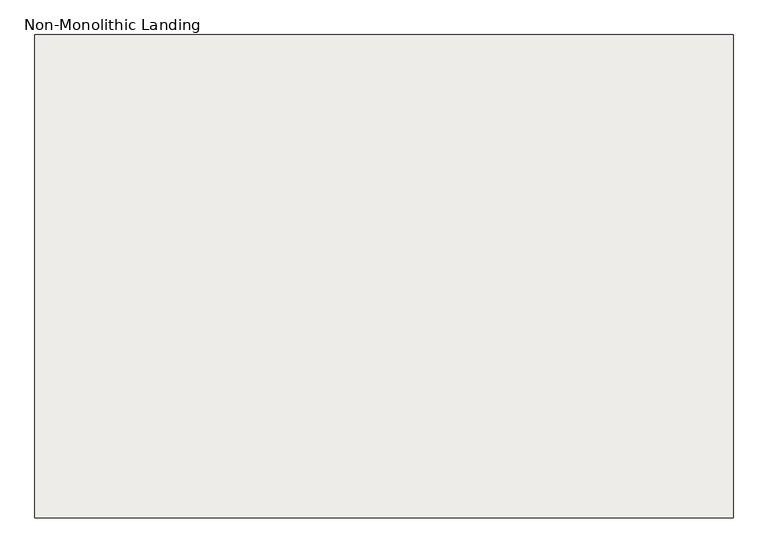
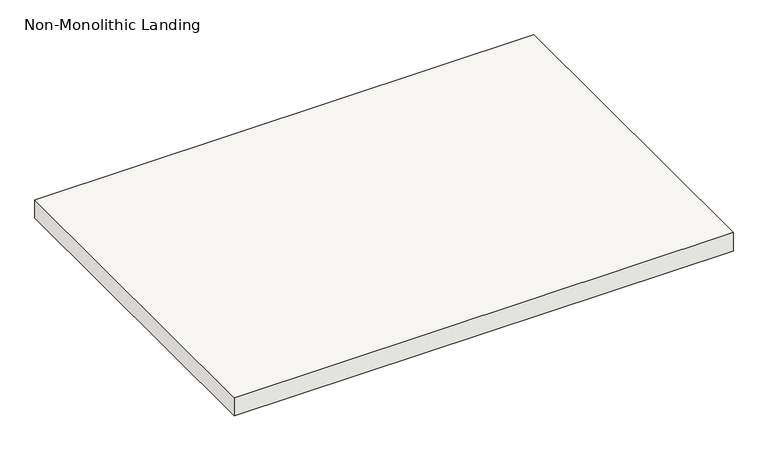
"""IFC4 building model written with IfcOpenShell, lengths in millimetres: slab geometry, Non-Monolithic Landing."""

from ifc_helpers import new_model, si_unit, frame, origin, place, context, project, spatial, polyline, outline, extrude, source, transform, mapped, element, save


def non_monolithic_landing_5d93acd5(model_context):
    return source(origin(), model_context, "Body", "SweptSolid", [
        extrude(outline(polyline([(161506.2211992, -1477.5711813), (162827.0211992, -1477.5711813), (162827.0211992, -2391.9711813), (161506.2211992, -2391.9711813), (161506.2211992, -1477.5711813)])), frame((0.0, 0.0, 2126.3428571), z_axis=(0.0, 0.0, 1.0), x_axis=(1.0, 0.0, 0.0)), (0.0, 0.0, 1.0), 50.8),
    ])


if __name__ == "__main__":
    model = new_model("IFC4")
    model_context = context("Model", 3, world=origin())
    ifc_project = project(units=[si_unit("LENGTHUNIT", "METRE", prefix="MILLI")], contexts=[model_context])
    site = spatial("IfcSite", under=ifc_project)
    building = spatial("IfcBuilding", under=site)
    placement = place(None, origin())
    non_monolithic_landing_shape = non_monolithic_landing_5d93acd5(model_context)
    element("IfcSlab", 1, ObjectType="Non-Monolithic Landing", at=placement, inside=building, context=model_context, shape_type="MappedRepresentation", body=[
        mapped(non_monolithic_landing_shape, transform((0.0, 0.0, 0.0), x_axis=(1.0, 0.0, 0.0), y_axis=(0.0, 1.0, 0.0), z_axis=(0.0, 0.0, 1.0))),
    ])
    save(model, "model.ifc")
